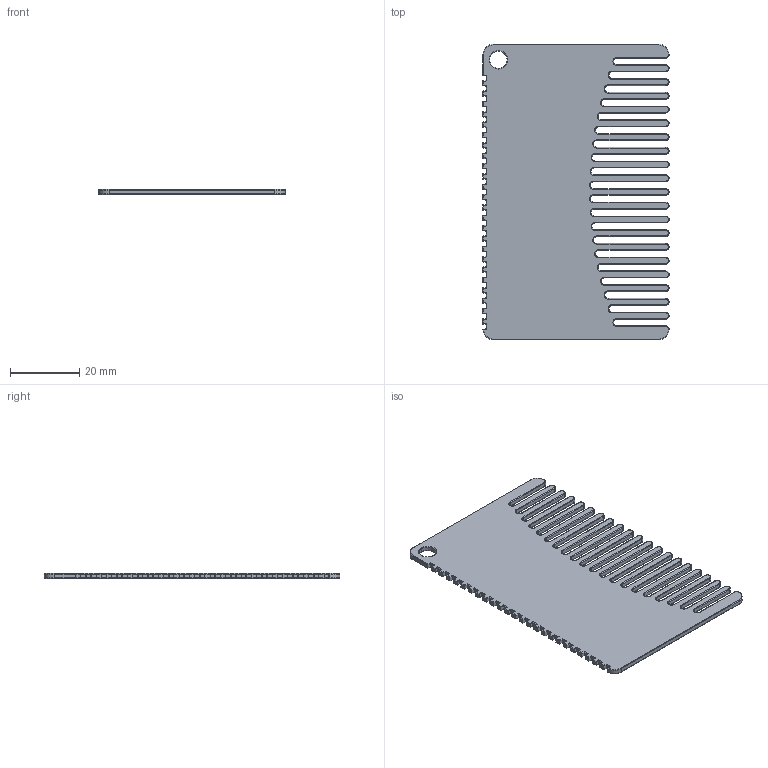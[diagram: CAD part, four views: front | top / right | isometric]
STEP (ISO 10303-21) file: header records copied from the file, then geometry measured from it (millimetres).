
FILE_DESCRIPTION (( 'STEP AP214' ), '1' );
FILE_NAME ('Credit Card Comb_RAW.STEP', '2023-07-21T14:35:19', ( '' ), ( '' ), 'SwSTEP 2.0', 'SolidWorks 2018', '' );
FILE_SCHEMA (( 'AUTOMOTIVE_DESIGN' ));
Length unit declared in the file: millimetre
Products named in the file (1): Credit Card Comb_RAW
Bounding box: 53.98 x 85.6 x 1.5 mm (x, y, z)
Volume: 5608 mm3; surface area: 8984.7 mm2
Topology: 1 solids, 1 shells, 632 faces, 1470 edges, 840 vertices
Faces by surface type: cylinder 353, plane 145, torus 134
Entity records: 17642 total; most frequent: CARTESIAN_POINT 3749, DIRECTION 2942, ORIENTED_EDGE 2940, EDGE_CURVE 1470, AXIS2_PLACEMENT_3D 1081, VERTEX_POINT 840, LINE 780, VECTOR 780
